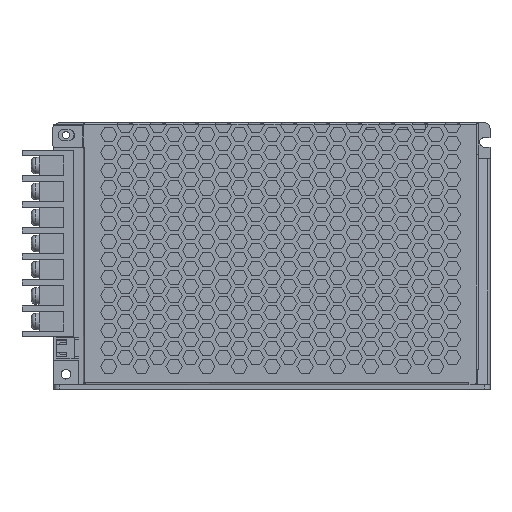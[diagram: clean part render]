
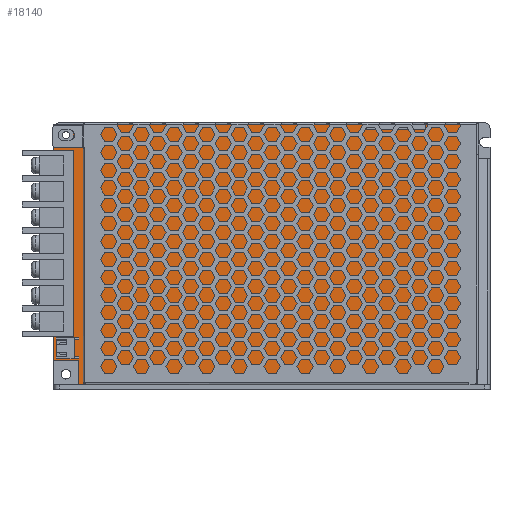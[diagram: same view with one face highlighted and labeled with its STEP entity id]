
A CAD part, top view. The second image highlights one B-rep face of the part: STEP entity #18140.
In plain terms, the highlighted planar face has unit normal (0, 0, 1).
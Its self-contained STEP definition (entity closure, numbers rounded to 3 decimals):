
#16640=CARTESIAN_POINT('',(0.,0.,0.));
#16650=DIRECTION('',(0.,0.,1.));
#16660=DIRECTION('',(1.,0.,0.));
#16670=AXIS2_PLACEMENT_3D('',#16640,#16650,#16660);
#16680=PLANE('',#16670);
#16690=CARTESIAN_POINT('',(-329.417,213.625,0.));
#16700=DIRECTION('',(-0.707,0.707,0.));
#16710=VECTOR('',#16700,1.);
#16720=LINE('',#16690,#16710);
#16730=CARTESIAN_POINT('',(-329.417,213.625,0.));
#16740=VERTEX_POINT('',#16730);
#16750=CARTESIAN_POINT('',(-329.667,213.875,0.));
#16760=VERTEX_POINT('',#16750);
#16770=EDGE_CURVE('',#16740,#16760,#16720,.T.);
#16780=ORIENTED_EDGE('',*,*,#16770,.F.);
#16790=CARTESIAN_POINT('',(-329.667,299.375,0.));
#16800=DIRECTION('',(0.,-1.,0.));
#16810=VECTOR('',#16800,1.);
#16820=LINE('',#16790,#16810);
#16830=CARTESIAN_POINT('',(-329.667,222.125,0.));
#16840=VERTEX_POINT('',#16830);
#16850=EDGE_CURVE('',#16840,#16760,#16820,.T.);
#16860=ORIENTED_EDGE('',*,*,#16850,.T.);
#16870=CARTESIAN_POINT('',(0.,222.125,0.));
#16880=DIRECTION('',(1.,0.,-0.));
#16890=VECTOR('',#16880,1.);
#16900=LINE('',#16870,#16890);
#16910=CARTESIAN_POINT('',(-322.417,222.125,0.));
#16920=VERTEX_POINT('',#16910);
#16930=EDGE_CURVE('',#16840,#16920,#16900,.T.);
#16940=ORIENTED_EDGE('',*,*,#16930,.F.);
#16950=CARTESIAN_POINT('',(-322.417,0.,0.));
#16960=DIRECTION('',(-0.,1.,0.));
#16970=VECTOR('',#16960,1.);
#16980=LINE('',#16950,#16970);
#16990=CARTESIAN_POINT('',(-322.417,290.125,0.));
#17000=VERTEX_POINT('',#16990);
#17010=EDGE_CURVE('',#16920,#17000,#16980,.T.);
#17020=ORIENTED_EDGE('',*,*,#17010,.F.);
#17030=CARTESIAN_POINT('',(0.,290.125,-0.));
#17040=DIRECTION('',(-1.,0.,0.));
#17050=VECTOR('',#17040,1.);
#17060=LINE('',#17030,#17050);
#17070=CARTESIAN_POINT('',(-329.667,290.125,0.));
#17080=VERTEX_POINT('',#17070);
#17090=EDGE_CURVE('',#17000,#17080,#17060,.T.);
#17100=ORIENTED_EDGE('',*,*,#17090,.F.);
#17110=CARTESIAN_POINT('',(-329.667,299.375,0.));
#17120=VERTEX_POINT('',#17110);
#17130=EDGE_CURVE('',#17120,#17080,#16820,.T.);
#17140=ORIENTED_EDGE('',*,*,#17130,.T.);
#17150=CARTESIAN_POINT('',(-329.667,299.375,0.));
#17160=DIRECTION('',(0.707,0.707,0.));
#17170=VECTOR('',#17160,1.);
#17180=LINE('',#17150,#17170);
#17190=CARTESIAN_POINT('',(-329.417,299.625,0.));
#17200=VERTEX_POINT('',#17190);
#17210=EDGE_CURVE('',#17120,#17200,#17180,.T.);
#17220=ORIENTED_EDGE('',*,*,#17210,.F.);
#17230=CARTESIAN_POINT('',(-177.167,299.625,0.));
#17240=DIRECTION('',(-1.,0.,0.));
#17250=VECTOR('',#17240,1.);
#17260=LINE('',#17230,#17250);
#17270=CARTESIAN_POINT('',(-215.667,299.625,0.));
#17280=VERTEX_POINT('',#17270);
#17290=EDGE_CURVE('',#17280,#17200,#17260,.T.);
#17300=ORIENTED_EDGE('',*,*,#17290,.T.);
#17310=CARTESIAN_POINT('',(-215.667,0.,0.));
#17320=DIRECTION('',(0.,-1.,0.));
#17330=VECTOR('',#17320,1.);
#17340=LINE('',#17310,#17330);
#17350=CARTESIAN_POINT('',(-215.667,297.625,0.));
#17360=VERTEX_POINT('',#17350);
#17370=EDGE_CURVE('',#17280,#17360,#17340,.T.);
#17380=ORIENTED_EDGE('',*,*,#17370,.F.);
#17390=CARTESIAN_POINT('',(0.,297.625,0.));
#17400=DIRECTION('',(1.,0.,0.));
#17410=VECTOR('',#17400,1.);
#17420=LINE('',#17390,#17410);
#17430=CARTESIAN_POINT('',(-194.167,297.625,0.));
#17440=VERTEX_POINT('',#17430);
#17450=EDGE_CURVE('',#17360,#17440,#17420,.T.);
#17460=ORIENTED_EDGE('',*,*,#17450,.F.);
#17470=CARTESIAN_POINT('',(-194.167,0.,0.));
#17480=DIRECTION('',(0.,1.,0.));
#17490=VECTOR('',#17480,1.);
#17500=LINE('',#17470,#17490);
#17510=CARTESIAN_POINT('',(-194.167,299.625,0.));
#17520=VERTEX_POINT('',#17510);
#17530=EDGE_CURVE('',#17440,#17520,#17500,.T.);
#17540=ORIENTED_EDGE('',*,*,#17530,.F.);
#17550=CARTESIAN_POINT('',(-177.167,299.625,0.));
#17560=VERTEX_POINT('',#17550);
#17570=EDGE_CURVE('',#17560,#17520,#17260,.T.);
#17580=ORIENTED_EDGE('',*,*,#17570,.T.);
#17590=CARTESIAN_POINT('',(-177.167,299.625,0.));
#17600=DIRECTION('',(0.,-1.,0.));
#17610=VECTOR('',#17600,1.);
#17620=LINE('',#17590,#17610);
#17630=CARTESIAN_POINT('',(-177.167,204.625,0.));
#17640=VERTEX_POINT('',#17630);
#17650=EDGE_CURVE('',#17560,#17640,#17620,.T.);
#17660=ORIENTED_EDGE('',*,*,#17650,.F.);
#17670=CARTESIAN_POINT('',(-320.417,204.625,0.));
#17680=DIRECTION('',(1.,0.,0.));
#17690=VECTOR('',#17680,1.);
#17700=LINE('',#17670,#17690);
#17710=CARTESIAN_POINT('',(-320.417,204.625,0.));
#17720=VERTEX_POINT('',#17710);
#17730=EDGE_CURVE('',#17720,#17640,#17700,.T.);
#17740=ORIENTED_EDGE('',*,*,#17730,.T.);
#17750=CARTESIAN_POINT('',(-320.417,204.625,0.));
#17760=DIRECTION('',(-0.707,0.707,0.));
#17770=VECTOR('',#17760,1.);
#17780=LINE('',#17750,#17770);
#17790=CARTESIAN_POINT('',(-320.667,204.875,0.));
#17800=VERTEX_POINT('',#17790);
#17810=EDGE_CURVE('',#17720,#17800,#17780,.T.);
#17820=ORIENTED_EDGE('',*,*,#17810,.F.);
#17830=CARTESIAN_POINT('',(-320.667,213.625,0.));
#17840=DIRECTION('',(0.,-1.,0.));
#17850=VECTOR('',#17840,1.);
#17860=LINE('',#17830,#17850);
#17870=CARTESIAN_POINT('',(-320.667,213.625,0.));
#17880=VERTEX_POINT('',#17870);
#17890=EDGE_CURVE('',#17880,#17800,#17860,.T.);
#17900=ORIENTED_EDGE('',*,*,#17890,.T.);
#17910=CARTESIAN_POINT('',(-329.417,213.625,0.));
#17920=DIRECTION('',(1.,0.,0.));
#17930=VECTOR('',#17920,1.);
#17940=LINE('',#17910,#17930);
#17950=EDGE_CURVE('',#16740,#17880,#17940,.T.);
#17960=ORIENTED_EDGE('',*,*,#17950,.T.);
#17970=EDGE_LOOP('',(#17960,#17900,#17820,#17740,#17660,#17580,#17540,
#17460,#17380,#17300,#17220,#17140,#17100,#17020,#16940,#16860,#16780));
#17980=FACE_OUTER_BOUND('',#17970,.T.);
#17990=CARTESIAN_POINT('',(-325.167,295.625,0.));
#18000=DIRECTION('',(0.,0.,1.));
#18010=DIRECTION('',(1.,0.,0.));
#18020=AXIS2_PLACEMENT_3D('',#17990,#18000,#18010);
#18030=CIRCLE('',#18020,2.75);
#18040=CARTESIAN_POINT('',(-322.417,295.625,0.));
#18050=VERTEX_POINT('',#18040);
#18060=CARTESIAN_POINT('',(-327.917,295.625,0.));
#18070=VERTEX_POINT('',#18060);
#18080=EDGE_CURVE('',#18050,#18070,#18030,.T.);
#18090=ORIENTED_EDGE('',*,*,#18080,.F.);
#18100=EDGE_CURVE('',#18070,#18050,#18030,.T.);
#18110=ORIENTED_EDGE('',*,*,#18100,.F.);
#18120=EDGE_LOOP('',(#18110,#18090));
#18130=FACE_BOUND('',#18120,.T.);
#18140=ADVANCED_FACE('',(#17980,#18130),#16680,.T.);
